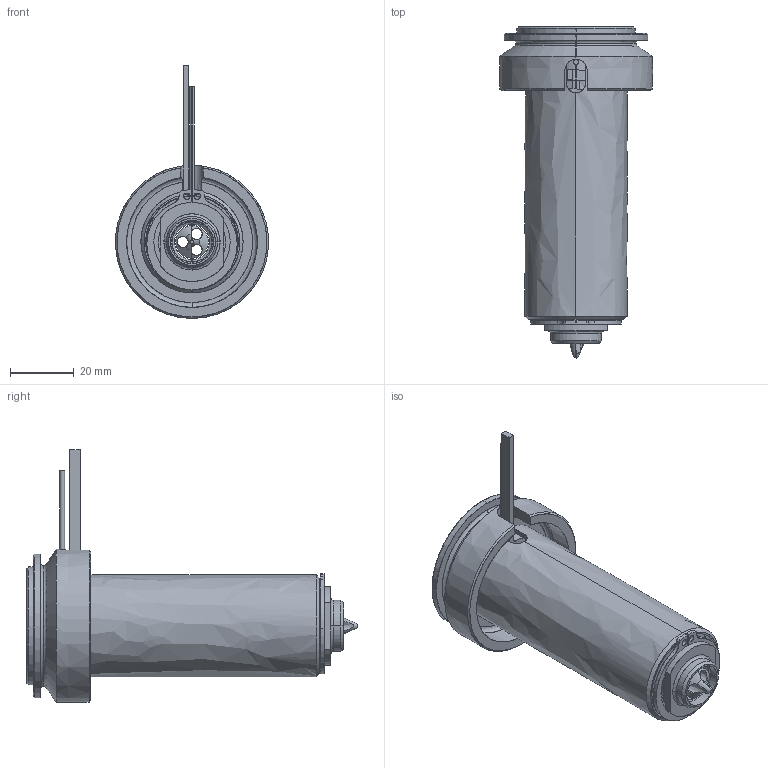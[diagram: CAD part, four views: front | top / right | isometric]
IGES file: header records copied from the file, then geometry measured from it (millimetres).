
Start section: SolidWorks IGES file using analytic representation for surfaces
Global section: file name: C:\Documents and Settings\ws-20\Desktop\TEM\UGEP5002-M-A-1 [Øf-1.18 ØC-12].IGS; native system: SolidWorks 2012; preprocessor: SolidWorks 2012; author: ws-20; date: 120426.100042; units: millimetre
Bounding box: 48 x 104.05 x 79.3 mm (x, y, z)
Surface area: 39445.3 mm2 (no closed solid volume)
Topology: 0 solids, 0 shells, 121 faces, 2281 edges, 2281 vertices
Faces by surface type: revolution 75, bspline 46
